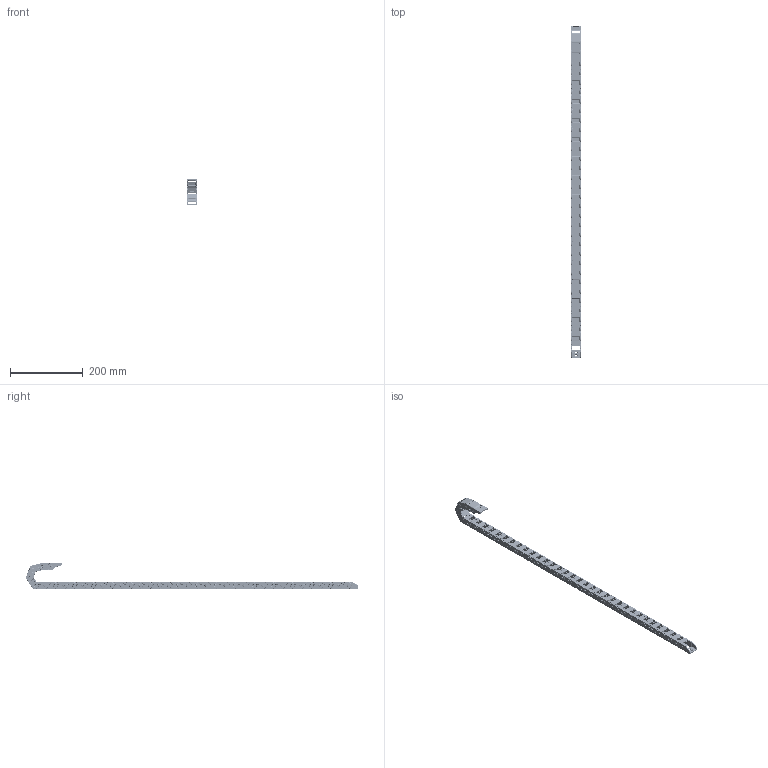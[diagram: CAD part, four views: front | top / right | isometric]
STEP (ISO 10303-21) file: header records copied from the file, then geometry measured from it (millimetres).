
FILE_DESCRIPTION(/* description */ (''),/* implementation_level */ '2;1');
FILE_NAME(/* name */ 'BFCK15x20R28.stp',/* time_stamp */ '2022-11-17T13:05:01+08:00',/* author */ (''),/* organization */ (''),/* preprocessor_version */ 'ST-DEVELOPER v16',/* originating_system */ 'SIEMENS PLM Software NX 10.0',/* authorisation */ '');
FILE_SCHEMA (('CONFIG_CONTROL_DESIGN'));
Products named in the file (1): BFCK15x20R28
Bounding box: 28.96 x 910.44 x 71.38 mm (x, y, z)
Volume: 188938.1 mm3; surface area: 223423.1 mm2
Topology: 76 solids, 76 shells, 12070 faces, 30560 edges, 18096 vertices
Faces by surface type: cylinder 5198, plane 4135, torus 1009, sphere 903, bspline 706, cone 82, extrusion 37
Full cylindrical faces by diameter (mm): 6 x2, 6.05 x2, 6.058 x148
Entity records: 379109 total; most frequent: CARTESIAN_POINT 96122, DIRECTION 60352, ORIENTED_EDGE 58784, EDGE_CURVE 29392, AXIS2_PLACEMENT_3D 22271, VERTEX_POINT 17909, VECTOR 15810, LINE 15773
